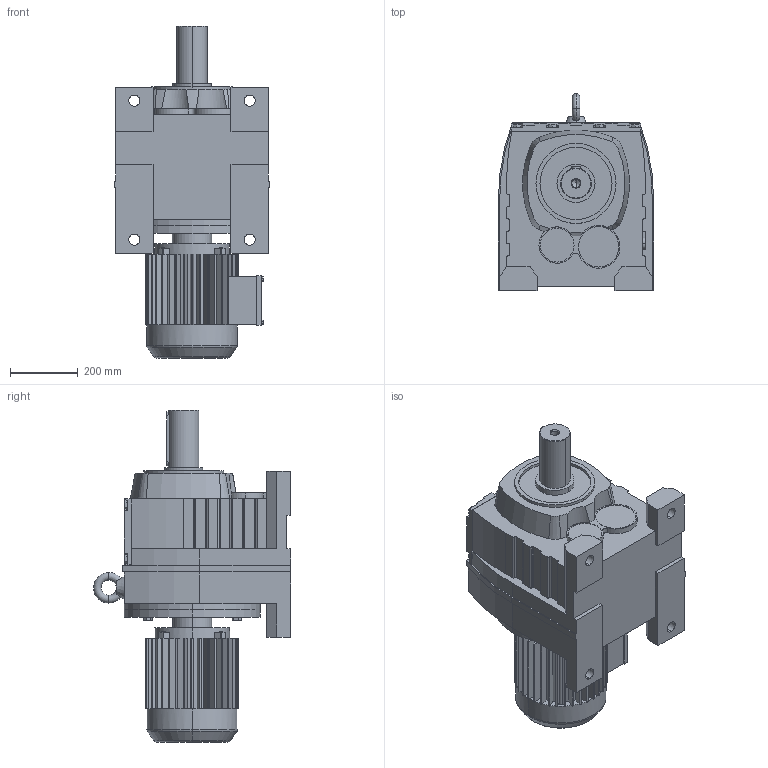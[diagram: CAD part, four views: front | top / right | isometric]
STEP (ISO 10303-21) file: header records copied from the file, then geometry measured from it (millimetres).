
FILE_DESCRIPTION(('Open CASCADE Model'),'2;1');
FILE_NAME('Open CASCADE Shape Model','2021-07-14T10:51:56',('Author'),( 'Open CASCADE'),'Open CASCADE STEP processor 6.3','Open CASCADE 6.3' ,'Unknown');
FILE_SCHEMA(('AUTOMOTIVE_DESIGN_CC2 { 1 2 10303 214 -1 1 5 4 }'));
Length unit declared in the file: millimetre
Products named in the file (3): 1_R137-Y132S; R37‵167_137.step; 萇儂_400_Y132S.step
Assembly tree (2 placements, depth 2):
  1_R137-Y132S
    R37‵167_137.step
    萇儂_400_Y132S.step
Bounding box: 458 x 581 x 979 mm (x, y, z)
Volume: 95929290.9 mm3; surface area: 2407909.5 mm2
Topology: 2 solids, 2 shells, 744 faces, 1978 edges, 1279 vertices
Faces by surface type: plane 529, cylinder 185, cone 20, torus 10
Entity records: 51847 total; most frequent: CARTESIAN_POINT 14090, DIRECTION 6588, ORIENTED_EDGE 3952, PCURVE 3952, DEFINITIONAL_REPRESENTATION 3952, LINE 3681, VECTOR 3681, EDGE_CURVE 1976
